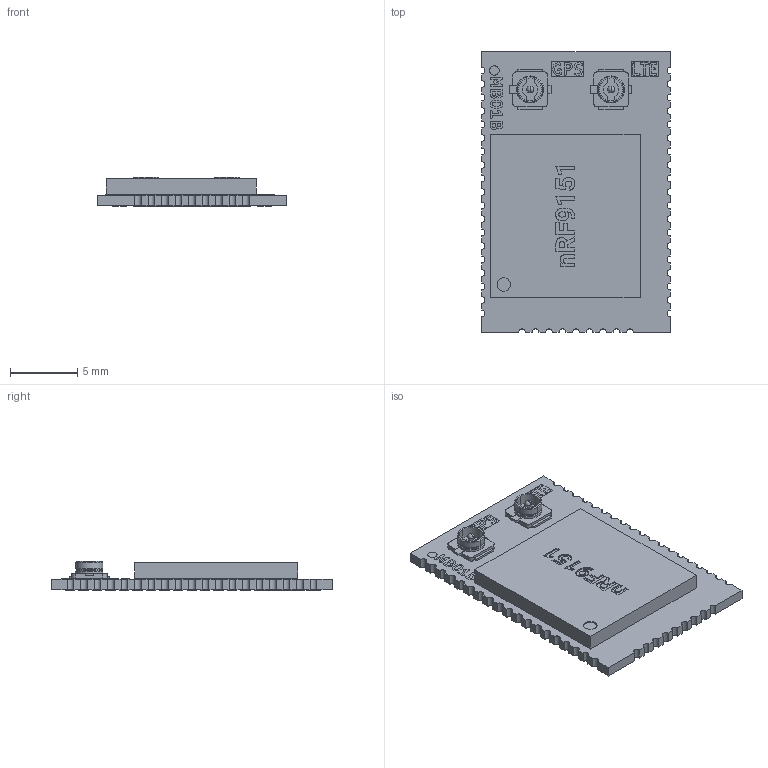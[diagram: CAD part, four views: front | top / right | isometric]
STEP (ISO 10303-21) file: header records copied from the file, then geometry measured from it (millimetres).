
FILE_DESCRIPTION(('KiCad electronic assembly'),'2;1');
FILE_NAME('MB01B.step','2026-01-01T12:00:00',('Pcbnew'),('Kicad'), 'Open CASCADE STEP processor 7.6','KiCad to STEP converter','Unknown' );
FILE_SCHEMA(('AUTOMOTIVE_DESIGN { 1 0 10303 214 1 1 1 1 }'));
Length unit declared in the file: millimetre
Products named in the file (6): board 1; NRF9151-LACA-R; U.FL-R-SMT-1_10_; board_silkscreen; board_PCB
Assembly tree (6 placements, depth 2):
  board 1
    NRF9151-LACA-R
    U.FL-R-SMT-1_10_  x2
    board_silkscreen
    board_silkscreen
    board_PCB
Bounding box: 14 x 20.8 x 2.17 mm (x, y, z)
Volume: 382.2 mm3; surface area: 1094.9 mm2
Topology: 14 solids, 116 shells, 1095 faces, 4880 edges, 4040 vertices
Faces by surface type: plane 918, cylinder 144, bspline 17, cone 12, sphere 4
Full cylindrical faces by diameter (mm): 1 x1
Entity records: 48214 total; most frequent: CARTESIAN_POINT 9693, DIRECTION 7368, ORIENTED_EDGE 6868, EDGE_CURVE 4627, VERTEX_POINT 3877, LINE 3784, VECTOR 3784, AXIS2_PLACEMENT_3D 1792
